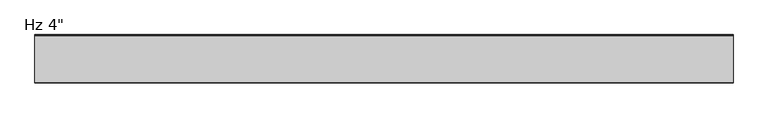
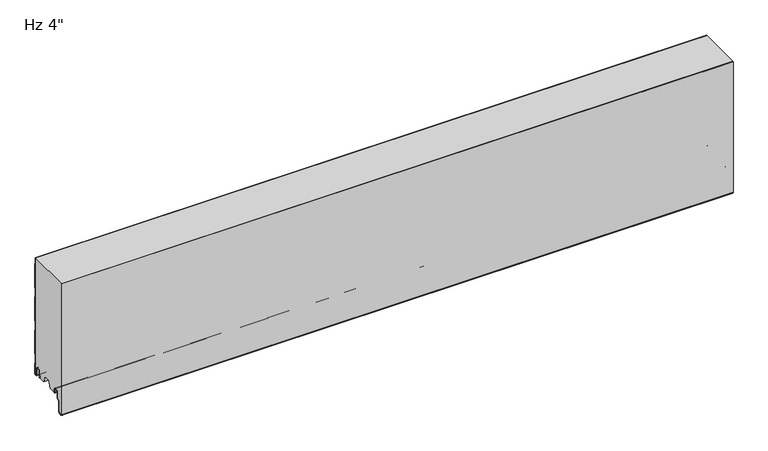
"""IFC4 building model written with IfcOpenShell, lengths in millimetres: plate geometry."""

from ifc_helpers import new_model, si_unit, point, frame, frame_2d, origin, place, context, project, spatial, polyline, circle_curve, trimmed, segment, composite_curve, outline, extrude, source, transform, mapped, element, save


def plate_69485673(model_context):
    return source(origin(), model_context, "Body", "SweptSolid", [
        extrude(outline(composite_curve([segment(trimmed(circle_curve(frame_2d((-2.3985037, -0.4487243)), 2.3999705), [point((-3.12e-05, -0.3639402))], [point((-2.3985037, -2.8486949))], False, "CARTESIAN"), True, "CONTINUOUS"), segment(polyline([(-2.3985037, -2.8486949), (-3.9516205, -2.8486949)]), True, "CONTINUOUS"), segment(trimmed(circle_curve(frame_2d((-3.9516205, 0.3613604)), 3.2100553), [point((-3.9516205, -2.8486949))], [point((-7.1616758, 0.3613604))], False, "CARTESIAN"), True, "CONTINUOUS"), segment(polyline([(-7.1616758, 0.3613604), (-7.1616758, 13.8905885)]), True, "CONTINUOUS"), segment(trimmed(circle_curve(frame_2d((-9.8816619, 13.8905885)), 2.7199861), [point((-7.1616758, 13.8905885))], [point((-9.8816619, 16.6105746))], True, "CARTESIAN"), True, "CONTINUOUS"), segment(polyline([(-9.8816619, 16.6105746), (-13.5282598, 16.6105746)]), True, "CONTINUOUS"), segment(trimmed(circle_curve(frame_2d((-13.5282598, 13.8905782)), 2.7199964), [point((-13.5282598, 16.6105746))], [point((-16.2482561, 13.8905782))], True, "CARTESIAN"), True, "CONTINUOUS"), segment(polyline([(-16.2482561, 13.8905782), (-16.2482561, 1.189897)]), True, "CONTINUOUS"), segment(trimmed(circle_curve(frame_2d((-17.7722572, 1.189897)), 1.524001), [point((-16.2482561, 1.189897))], [point((-19.2731052, 1.454537))], False, "CARTESIAN"), True, "CONTINUOUS"), segment(polyline([(-19.2731052, 1.454537), (-18.1704393, 7.7080661), (-17.2482561, 7.5454603), (-17.2482561, 13.8905782)]), True, "CONTINUOUS"), segment(trimmed(circle_curve(frame_2d((-13.5282598, 13.8905782)), 3.7199964), [point((-17.2482561, 13.8905782))], [point((-13.5282598, 17.6105746))], False, "CARTESIAN"), True, "CONTINUOUS"), segment(polyline([(-13.5282598, 17.6105746), (-9.8816619, 17.6105746)]), True, "CONTINUOUS"), segment(trimmed(circle_curve(frame_2d((-9.8816619, 13.8905885)), 3.7199861), [point((-9.8816619, 17.6105746))], [point((-6.1616758, 13.8905885))], False, "CARTESIAN"), True, "CONTINUOUS"), segment(polyline([(-6.1616758, 13.8905885), (-6.1616758, 0.3613604)]), True, "CONTINUOUS"), segment(trimmed(circle_curve(frame_2d((-3.9516205, 0.3613604)), 2.2100553), [point((-6.1616758, 0.3613604))], [point((-3.9516205, -1.8486949))], True, "CARTESIAN"), True, "CONTINUOUS"), segment(polyline([(-3.9516205, -1.8486949), (-2.3985037, -1.8486949)]), True, "CONTINUOUS"), segment(trimmed(circle_curve(frame_2d((-2.3985037, -0.4487243)), 1.3999705), [point((-2.3985037, -1.8486949))], [point((-1.0000312, -0.3839769))], True, "CARTESIAN"), True, "CONTINUOUS"), segment(polyline([(-1.0000312, -0.3839769), (-1.0000312, 22.2866086), (-2.2002516, 23.486829), (-2.2002516, 43.1222888), (-1.0000209, 44.3225195), (-1.0000209, 98.4864459), (-2.2002516, 99.6866766), (-2.2002516, 119.3221364), (-1.0000209, 120.5223671), (-1.0000209, 174.6698551), (-2.2002516, 175.8700858), (-2.2002516, 195.5055456), (-1.0000209, 196.7057763), (-1.0000209, 250.8532643), (-2.2002516, 252.0534951), (-2.2002516, 266.4), (-1.2002516, 266.4), (-1.2002516, 252.4677086), (-2.09e-05, 251.2674779), (-2.09e-05, 196.2915628), (-1.2002516, 195.091332), (-1.2002516, 176.2842994), (-2.09e-05, 175.0840687), (-2.09e-05, 120.1081535), (-1.2002516, 118.9079228), (-1.2002516, 100.1008902), (-2.09e-05, 98.9006594), (-2.09e-05, 43.9083059), (-1.2002516, 42.7080752), (-1.2002516, 23.9010426), (-3.12e-05, 22.7008222), (-3.12e-05, -0.3639402)]), True, "CONTINUOUS")], self_intersect=False)), frame((-730.0, 0.0, 0.0), z_axis=(1.0, 0.0, 0.0), x_axis=(0.0, 1.0, 0.0)), (0.0, 0.0, 1.0), 1460.0),
        extrude(outline(composite_curve([segment(trimmed(circle_curve(frame_2d((-73.3060531, 0.8654988)), 1.2), [point((-72.1060541, 0.8670134))], [point((-74.5045377, 0.8052116))], False, "CARTESIAN"), True, "CONTINUOUS"), segment(polyline([(-74.5045377, 0.8052116), (-74.5045377, 7.3245305)]), True, "CONTINUOUS"), segment(trimmed(circle_curve(frame_2d((-76.8545376, 7.3245305)), 2.3499999), [point((-74.5045377, 7.3245305))], [point((-76.8545376, 9.6745305))], True, "CARTESIAN"), True, "CONTINUOUS"), segment(polyline([(-76.8545376, 9.6745305), (-81.2545375, 9.6745305)]), True, "CONTINUOUS"), segment(trimmed(circle_curve(frame_2d((-81.2545375, 7.3245305)), 2.3499999), [point((-81.2545375, 9.6745305))], [point((-83.6045374, 7.3245305))], True, "CARTESIAN"), True, "CONTINUOUS"), segment(polyline([(-83.6045374, 7.3245305), (-83.6045374, -4.4863817)]), True, "CONTINUOUS"), segment(trimmed(circle_curve(frame_2d((-86.3045374, -4.4863817)), 2.7), [point((-83.6045374, -4.4863817))], [point((-84.3953491, -6.39557))], False, "CARTESIAN"), True, "CONTINUOUS"), segment(polyline([(-84.3953491, -6.39557), (-89.135908, -11.1361289)]), True, "CONTINUOUS"), segment(trimmed(circle_curve(frame_2d((-88.0045372, -12.2674998)), 1.6), [point((-89.135908, -11.1361289))], [point((-89.6045372, -12.2674998))], True, "CARTESIAN"), True, "CONTINUOUS"), segment(polyline([(-89.6045372, -12.2674998), (-89.6045372, -33.274257)]), True, "CONTINUOUS"), segment(trimmed(circle_curve(frame_2d((-93.3045372, -33.274257)), 3.7), [point((-89.6045372, -33.274257))], [point((-92.98177, -36.960152))], False, "CARTESIAN"), True, "CONTINUOUS"), segment(polyline([(-92.98177, -36.960152), (-97.7287586, -37.3758371)]), True, "CONTINUOUS"), segment(trimmed(circle_curve(frame_2d((-98.0393697, -33.8287598)), 3.5606512), [point((-97.7287586, -37.3758371))], [point((-101.6000209, -33.8287598))], False, "CARTESIAN"), True, "CONTINUOUS"), segment(polyline([(-101.6000209, -33.8287598), (-101.6000209, 266.4), (-100.6000209, 266.4), (-100.6000209, -33.8287598)]), True, "CONTINUOUS"), segment(trimmed(circle_curve(frame_2d((-98.0393697, -33.8287598)), 2.5606512), [point((-100.6000209, -33.8287598))], [point((-97.8159929, -36.3796493))], True, "CARTESIAN"), True, "CONTINUOUS"), segment(polyline([(-97.8159929, -36.3796493), (-93.0690044, -35.9639641)]), True, "CONTINUOUS"), segment(trimmed(circle_curve(frame_2d((-93.3045372, -33.274257)), 2.7), [point((-93.0690044, -35.9639641))], [point((-90.6045372, -33.274257))], True, "CARTESIAN"), True, "CONTINUOUS"), segment(polyline([(-90.6045372, -33.274257), (-90.6045372, -12.2674998)]), True, "CONTINUOUS"), segment(trimmed(circle_curve(frame_2d((-88.0045372, -12.2674998)), 2.6), [point((-90.6045372, -12.2674998))], [point((-89.8430148, -10.4290221))], False, "CARTESIAN"), True, "CONTINUOUS"), segment(polyline([(-89.8430148, -10.4290221), (-85.1024559, -5.6884632)]), True, "CONTINUOUS"), segment(trimmed(circle_curve(frame_2d((-86.3045374, -4.4863817)), 1.7), [point((-85.1024559, -5.6884632))], [point((-84.6045374, -4.4863817))], True, "CARTESIAN"), True, "CONTINUOUS"), segment(polyline([(-84.6045374, -4.4863817), (-84.6045374, 7.3245305)]), True, "CONTINUOUS"), segment(trimmed(circle_curve(frame_2d((-81.2545375, 7.3245305)), 3.3499999), [point((-84.6045374, 7.3245305))], [point((-81.2545375, 10.6745305))], False, "CARTESIAN"), True, "CONTINUOUS"), segment(polyline([(-81.2545375, 10.6745305), (-76.8545376, 10.6745305)]), True, "CONTINUOUS"), segment(trimmed(circle_curve(frame_2d((-76.8545376, 7.3245305)), 3.3499999), [point((-76.8545376, 10.6745305))], [point((-73.5045377, 7.3245305))], False, "CARTESIAN"), True, "CONTINUOUS"), segment(polyline([(-73.5045377, 7.3245305), (-73.5045377, 4.6254142), (-72.1060541, 4.6254142), (-72.1060541, 0.8670134)]), True, "CONTINUOUS")], self_intersect=False)), frame((-730.0, 0.0, 0.0), z_axis=(1.0, 0.0, 0.0), x_axis=(0.0, 1.0, 0.0)), (0.0, 0.0, 1.0), 1460.0),
        extrude(outline(composite_curve([segment(trimmed(circle_curve(frame_2d((-76.8545376, 7.3245305)), 3.3499999), [point((-73.5045377, 7.3245305))], [point((-76.8545376, 10.6745305))], True, "CARTESIAN"), True, "CONTINUOUS"), segment(polyline([(-76.8545376, 10.6745305), (-81.2545375, 10.6745305)]), True, "CONTINUOUS"), segment(trimmed(circle_curve(frame_2d((-81.2545375, 7.3245305)), 3.3499999), [point((-81.2545375, 10.6745305))], [point((-84.6045374, 7.3245305))], True, "CARTESIAN"), True, "CONTINUOUS"), segment(polyline([(-84.6045374, 7.3245305), (-84.6045374, -4.4863817)]), True, "CONTINUOUS"), segment(trimmed(circle_curve(frame_2d((-86.3045374, -4.4863817)), 1.7), [point((-84.6045374, -4.4863817))], [point((-85.1024559, -5.6884632))], False, "CARTESIAN"), True, "CONTINUOUS"), segment(polyline([(-85.1024559, -5.6884632), (-89.8430148, -10.4290221)]), True, "CONTINUOUS"), segment(trimmed(circle_curve(frame_2d((-88.0045372, -12.2674998)), 2.6), [point((-89.8430148, -10.4290221))], [point((-90.6045372, -12.2674998))], True, "CARTESIAN"), True, "CONTINUOUS"), segment(polyline([(-90.6045372, -12.2674998), (-90.6045372, -33.274257)]), True, "CONTINUOUS"), segment(trimmed(circle_curve(frame_2d((-93.3045372, -33.274257)), 2.7), [point((-90.6045372, -33.274257))], [point((-93.0690044, -35.9639641))], False, "CARTESIAN"), True, "CONTINUOUS"), segment(polyline([(-93.0690044, -35.9639641), (-97.8159929, -36.3796493)]), True, "CONTINUOUS"), segment(trimmed(circle_curve(frame_2d((-98.0393697, -33.8287598)), 2.5606512), [point((-97.8159929, -36.3796493))], [point((-100.6000209, -33.8287598))], False, "CARTESIAN"), True, "CONTINUOUS"), segment(polyline([(-100.6000209, -33.8287598), (-100.6000209, 266.4), (-2.2002516, 266.4), (-2.2002516, 252.0534951), (-1.0000209, 250.8532643), (-1.0000209, 196.7057763), (-2.2002516, 195.5055456), (-2.2002516, 175.8700858), (-1.0000209, 174.6698551), (-1.0000209, 120.5223671), (-2.2002516, 119.3221364), (-2.2002516, 99.6866766), (-1.0000209, 98.4864459), (-1.0000209, 44.3225195), (-2.2002516, 43.1222888), (-2.2002516, 23.486829), (-1.0000312, 22.2866086), (-1.0000312, -0.3839769)]), True, "CONTINUOUS"), segment(trimmed(circle_curve(frame_2d((-2.3985037, -0.4487243)), 1.3999705), [point((-1.0000312, -0.3839769))], [point((-2.3985037, -1.8486949))], False, "CARTESIAN"), True, "CONTINUOUS"), segment(polyline([(-2.3985037, -1.8486949), (-3.9516205, -1.8486949)]), True, "CONTINUOUS"), segment(trimmed(circle_curve(frame_2d((-3.9516205, 0.3613604)), 2.2100553), [point((-3.9516205, -1.8486949))], [point((-6.1616758, 0.3613604))], False, "CARTESIAN"), True, "CONTINUOUS"), segment(polyline([(-6.1616758, 0.3613604), (-6.1616758, 13.8905885)]), True, "CONTINUOUS"), segment(trimmed(circle_curve(frame_2d((-9.8816619, 13.8905885)), 3.7199861), [point((-6.1616758, 13.8905885))], [point((-9.8816619, 17.6105746))], True, "CARTESIAN"), True, "CONTINUOUS"), segment(polyline([(-9.8816619, 17.6105746), (-13.5282598, 17.6105746)]), True, "CONTINUOUS"), segment(trimmed(circle_curve(frame_2d((-13.5282598, 13.8905782)), 3.7199964), [point((-13.5282598, 17.6105746))], [point((-17.2482561, 13.8905782))], True, "CARTESIAN"), True, "CONTINUOUS"), segment(polyline([(-17.2482561, 13.8905782), (-17.2482561, 7.5454603), (-18.1704393, 7.7080661), (-19.2731052, 1.454537)]), True, "CONTINUOUS"), segment(trimmed(circle_curve(frame_2d((-17.7722572, 1.189897)), 1.524001), [point((-19.2731052, 1.454537))], [point((-18.724478, 0.0))], True, "CARTESIAN"), True, "CONTINUOUS"), segment(polyline([(-18.724478, 0.0), (-33.5050787, 0.0), (-39.1301227, 14.9979533), (-51.7686274, 14.9979533), (-57.3928551, 0.0), (-72.4748421, 0.0)]), True, "CONTINUOUS"), segment(trimmed(circle_curve(frame_2d((-73.3060531, 0.8654988)), 1.2), [point((-72.4748421, 0.0))], [point((-72.1060541, 0.8670134))], True, "CARTESIAN"), True, "CONTINUOUS"), segment(polyline([(-72.1060541, 0.8670134), (-72.1060541, 4.6254142), (-73.5045377, 4.6254142), (-73.5045377, 7.3245305)]), True, "CONTINUOUS")], self_intersect=False)), frame((-730.0, 0.0, 0.0), z_axis=(1.0, 0.0, 0.0), x_axis=(0.0, 1.0, 0.0)), (0.0, 0.0, 1.0), 1460.0),
    ])


if __name__ == "__main__":
    model = new_model("IFC4")
    model_context = context("Model", 3, world=origin())
    ifc_project = project(units=[si_unit("LENGTHUNIT", "METRE", prefix="MILLI")], contexts=[model_context])
    site = spatial("IfcSite", under=ifc_project)
    building = spatial("IfcBuilding", under=site)
    placement = place(None, origin())
    plate_shape = plate_69485673(model_context)
    element("IfcPlate", 1, ObjectType="KIP-42-KRHF-R19-CP-Hz-FL_SL : Hz 4\"", at=placement, inside=building, context=model_context, shape_type="MappedRepresentation", body=[
        mapped(plate_shape, transform((0.0, 0.0, 0.0), x_axis=(1.0, 0.0, 0.0), y_axis=(0.0, 1.0, 0.0), z_axis=(0.0, 0.0, 1.0))),
    ])
    save(model, "model.ifc")
